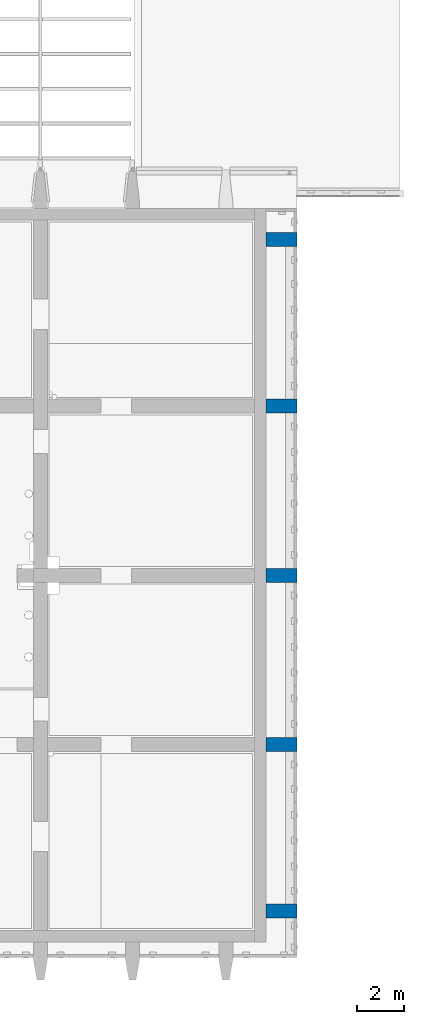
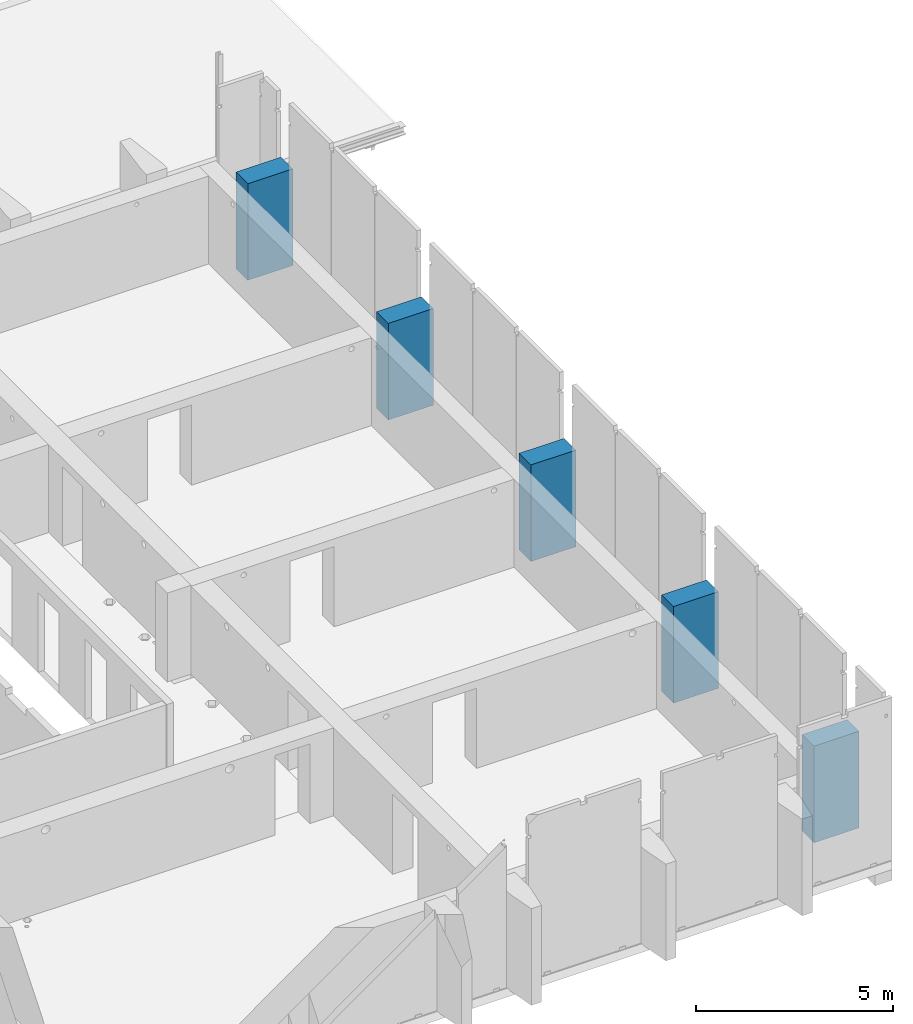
# One storey, part 3 of 31: 5 columns.
"""IFC2X3 building model written with IfcOpenShell, lengths in millimetres."""

from ifc_helpers import new_model, entity, si_unit, converted_unit, derived_unit, direction, frame, frame_2d, origin, origin_2d_with_axis, place, context, subcontext, project, spatial, rectangle, extrude, source, transform, mapped, material, type_object, type_shapes, element, save


model = new_model("IFC2X3")

# Units and contexts
model_context = context("Model", 3, precision=0.01, world=origin(), true_north=direction((6.12303176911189e-17, 1.0)))
body_context = subcontext(model_context, "Body", "Model", "MODEL_VIEW")
ifc_project = project(units=[si_unit("LENGTHUNIT", "METRE", prefix="MILLI"), si_unit("AREAUNIT", "SQUARE_METRE"), si_unit("VOLUMEUNIT", "CUBIC_METRE"), converted_unit("PLANEANGLEUNIT", "DEGREE", entity("IfcRatioMeasure", 0.0174532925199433), si_unit("PLANEANGLEUNIT", "RADIAN"), dimensions=[0, 0, 0, 0, 0, 0, 0]), si_unit("MASSUNIT", "GRAM", prefix="KILO"), derived_unit("MASSDENSITYUNIT", [(si_unit("MASSUNIT", "GRAM", prefix="KILO"), 1), (si_unit("LENGTHUNIT", "METRE"), -3)]), si_unit("TIMEUNIT", "SECOND"), si_unit("FREQUENCYUNIT", "HERTZ"), si_unit("THERMODYNAMICTEMPERATUREUNIT", "DEGREE_CELSIUS"), derived_unit("THERMALTRANSMITTANCEUNIT", [(si_unit("MASSUNIT", "GRAM", prefix="KILO"), 1), (si_unit("THERMODYNAMICTEMPERATUREUNIT", "KELVIN"), -1), (si_unit("TIMEUNIT", "SECOND"), -3)]), derived_unit("VOLUMETRICFLOWRATEUNIT", [(si_unit("LENGTHUNIT", "METRE"), 3), (si_unit("TIMEUNIT", "SECOND"), -1)]), si_unit("ELECTRICCURRENTUNIT", "AMPERE"), si_unit("ELECTRICVOLTAGEUNIT", "VOLT"), si_unit("POWERUNIT", "WATT"), si_unit("FORCEUNIT", "NEWTON", prefix="KILO"), si_unit("ILLUMINANCEUNIT", "LUX"), si_unit("LUMINOUSFLUXUNIT", "LUMEN"), si_unit("LUMINOUSINTENSITYUNIT", "CANDELA"), derived_unit("USERDEFINED", [(si_unit("MASSUNIT", "GRAM", prefix="KILO"), -1), (si_unit("LENGTHUNIT", "METRE"), -2), (si_unit("TIMEUNIT", "SECOND"), 3), (si_unit("LUMINOUSFLUXUNIT", "LUMEN"), 1)]), derived_unit("LINEARVELOCITYUNIT", [(si_unit("LENGTHUNIT", "METRE"), 1), (si_unit("TIMEUNIT", "SECOND"), -1)]), si_unit("PRESSUREUNIT", "PASCAL"), derived_unit("USERDEFINED", [(si_unit("LENGTHUNIT", "METRE"), -2), (si_unit("MASSUNIT", "GRAM", prefix="KILO"), 1), (si_unit("TIMEUNIT", "SECOND"), -2)])], contexts=[model_context])

# Site, building, storey
site_placement = place(None, origin())
site = spatial("IfcSite", under=ifc_project, at=site_placement, Name="Default", CompositionType="ELEMENT")
building_placement = place(site_placement, origin())
building = spatial("IfcBuilding", under=site, at=building_placement, Name="niet gebruiken", CompositionType="ELEMENT")
storey_placement = place(building_placement, frame((0.0, 0.0, 12000.0)))
storey = spatial("IfcBuildingStorey", under=building, at=storey_placement, Name="03 derde verdieping", CompositionType="ELEMENT", Elevation=12000.0)

# Columns
ifc_material = material(Name="NLRS_f2_beton ihwg")
column_type_1 = type_object("IfcColumnType", Name="600x1320", PredefinedType="COLUMN", material=ifc_material)
shared_shape_1 = source(origin(), body_context, "Body", "SweptSolid", [
    extrude(rectangle(XDim=600.000000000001, YDim=1320.00000000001, at=origin_2d_with_axis()), frame((158140.0, 3100.0, 11910.0), z_axis=(0.0, 0.0, 1.0), x_axis=(0.0, -1.0, 0.0)), (0.0, 0.0, 1.0), 3000.0),
])
type_shapes(column_type_1, [shared_shape_1])
column_1_placement = place(storey_placement, frame((0.0, 0.0, -12000.0)))
element("IfcColumn", 1, at=column_1_placement, inside=storey, type_object=column_type_1, material=ifc_material, Name="NLRS_28.11_SCO_TLB_beton kolom ihwg_gen:600x1320", ObjectType="600x1320", context=body_context, shape_type="MappedRepresentation", body=[
    mapped(shared_shape_1, transform((0.0, 0.0, 0.0), scale=1.0)),
])
column_type_2 = type_object("IfcColumnType", Name="600x1320", PredefinedType="COLUMN", material=ifc_material)
shared_shape_2 = source(origin(), body_context, "Body", "SweptSolid", [
    extrude(rectangle(XDim=599.999999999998, YDim=1320.00000000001, at=frame_2d((-1.08002495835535e-12, 0.0), x_axis=(1.0, 0.0))), frame((158140.0, 10250.0, 11910.0), z_axis=(0.0, 0.0, 1.0), x_axis=(0.0, -1.0, 0.0)), (0.0, 0.0, 1.0), 3000.0),
])
type_shapes(column_type_2, [shared_shape_2])
column_2_placement = place(storey_placement, frame((0.0, 0.0, -12000.0)))
element("IfcColumn", 2, at=column_2_placement, inside=storey, type_object=column_type_2, material=ifc_material, Name="NLRS_28.11_SCO_TLB_beton kolom ihwg_gen:600x1320", ObjectType="600x1320", context=body_context, shape_type="MappedRepresentation", body=[
    mapped(shared_shape_2, transform((0.0, 0.0, 0.0), scale=1.0)),
])
column_type_3 = type_object("IfcColumnType", Name="600x1320", PredefinedType="COLUMN", material=ifc_material)
shared_shape_3 = source(origin(), body_context, "Body", "SweptSolid", [
    extrude(rectangle(XDim=599.999999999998, YDim=1320.00000000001, at=frame_2d((1.08002495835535e-12, 0.0), x_axis=(1.0, 0.0))), frame((158140.0, 17500.0, 11910.0), z_axis=(0.0, 0.0, 1.0), x_axis=(0.0, -1.0, 0.0)), (0.0, 0.0, 1.0), 3000.0),
])
type_shapes(column_type_3, [shared_shape_3])
column_3_placement = place(storey_placement, frame((0.0, 0.0, -12000.0)))
element("IfcColumn", 3, at=column_3_placement, inside=storey, type_object=column_type_3, material=ifc_material, Name="NLRS_28.11_SCO_TLB_beton kolom ihwg_gen:600x1320", ObjectType="600x1320", context=body_context, shape_type="MappedRepresentation", body=[
    mapped(shared_shape_3, transform((0.0, 0.0, 0.0), scale=1.0)),
])
column_type_4 = type_object("IfcColumnType", Name="600x1320", PredefinedType="COLUMN", material=ifc_material)
shared_shape_4 = source(origin(), body_context, "Body", "SweptSolid", [
    extrude(rectangle(XDim=599.999999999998, YDim=1320.00000000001, at=origin_2d_with_axis()), frame((158140.0, 24750.0, 11910.0), z_axis=(0.0, 0.0, 1.0), x_axis=(0.0, -1.0, 0.0)), (0.0, 0.0, 1.0), 3000.0),
])
type_shapes(column_type_4, [shared_shape_4])
column_4_placement = place(storey_placement, frame((0.0, 0.0, -12000.0)))
element("IfcColumn", 4, at=column_4_placement, inside=storey, type_object=column_type_4, material=ifc_material, Name="NLRS_28.11_SCO_TLB_beton kolom ihwg_gen:600x1320", ObjectType="600x1320", context=body_context, shape_type="MappedRepresentation", body=[
    mapped(shared_shape_4, transform((0.0, 0.0, 0.0), scale=1.0)),
])
column_type_5 = type_object("IfcColumnType", Name="600x1320", PredefinedType="COLUMN", material=ifc_material)
shared_shape_5 = source(origin(), body_context, "Body", "SweptSolid", [
    extrude(rectangle(XDim=599.999999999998, YDim=1320.00000000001, at=origin_2d_with_axis()), frame((158140.0, 31900.0, 11910.0), z_axis=(0.0, 0.0, 1.0), x_axis=(0.0, -1.0, 0.0)), (0.0, 0.0, 1.0), 3000.0),
])
type_shapes(column_type_5, [shared_shape_5])
column_5_placement = place(storey_placement, frame((0.0, 0.0, -12000.0)))
element("IfcColumn", 5, at=column_5_placement, inside=storey, type_object=column_type_5, material=ifc_material, Name="NLRS_28.11_SCO_TLB_beton kolom ihwg_gen:600x1320", ObjectType="600x1320", context=body_context, shape_type="MappedRepresentation", body=[
    mapped(shared_shape_5, transform((0.0, 0.0, 0.0), scale=1.0)),
])

save(model, "model.ifc")
